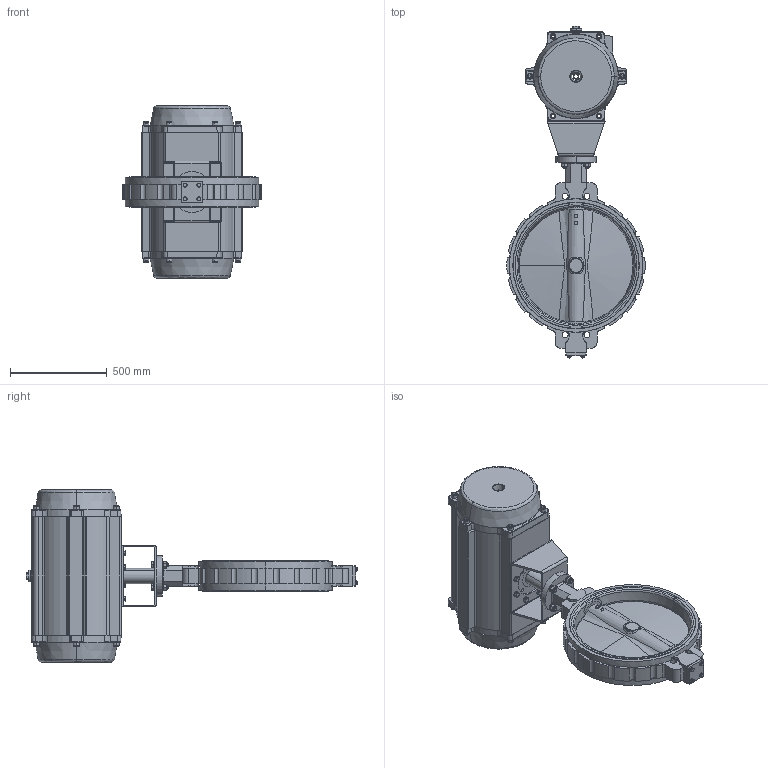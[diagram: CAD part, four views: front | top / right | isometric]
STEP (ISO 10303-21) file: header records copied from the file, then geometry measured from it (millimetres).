
FILE_DESCRIPTION (( 'STEP AP214' ), '1' );
FILE_NAME ('VPE440X-N07XX0600.STEP', '2020-09-04T08:41:23', ( '' ), ( '' ), 'SwSTEP 2.0', 'SolidWorks 2017', '' );
FILE_SCHEMA (( 'AUTOMOTIVE_DESIGN' ));
Length unit declared in the file: millimetre
Products named in the file (1): VPE440X-N07XX0600
Bounding box: 714.75 x 1716 x 890 mm (x, y, z)
Surface area: 4659300.7 mm2 (no closed solid volume)
Topology: 0 solids, 102 shells, 881 faces, 2834 edges, 1982 vertices
Faces by surface type: plane 355, cylinder 305, bspline 96, cone 88, torus 37
Entity records: 51771 total; most frequent: CARTESIAN_POINT 18199, DIRECTION 4880, ORIENTED_EDGE 4524, EDGE_CURVE 2826, VERTEX_POINT 1982, AXIS2_PLACEMENT_3D 1857, VECTOR 1166, LINE 1166
